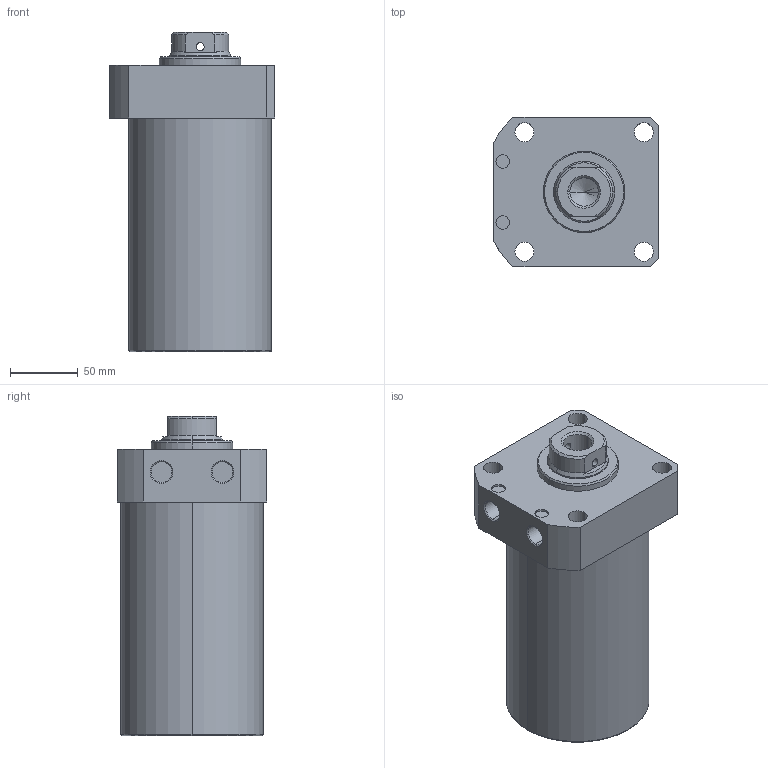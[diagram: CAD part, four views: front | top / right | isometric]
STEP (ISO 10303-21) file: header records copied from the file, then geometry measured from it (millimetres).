
FILE_DESCRIPTION (( 'STEP AP203' ), '1' );
FILE_NAME ('CLLR-105CB-125.STEP', '2019-12-18T07:32:34', ( '' ), ( '' ), 'SwSTEP 2.0', 'SolidWorks 2015', '' );
FILE_SCHEMA (( 'CONFIG_CONTROL_DESIGN' ));
Length unit declared in the file: millimetre
Products named in the file (1): CLLR-105CB-125
Bounding box: 122 x 110 x 235 mm (x, y, z)
Volume: 1986078.8 mm3; surface area: 115499.7 mm2
Topology: 1 solids, 1 shells, 69 faces, 165 edges, 104 vertices
Faces by surface type: cylinder 33, plane 19, cone 15, torus 2
Entity records: 2227 total; most frequent: CARTESIAN_POINT 481, DIRECTION 372, ORIENTED_EDGE 326, EDGE_CURVE 163, AXIS2_PLACEMENT_3D 151, VERTEX_POINT 104, EDGE_LOOP 89, CIRCLE 81
